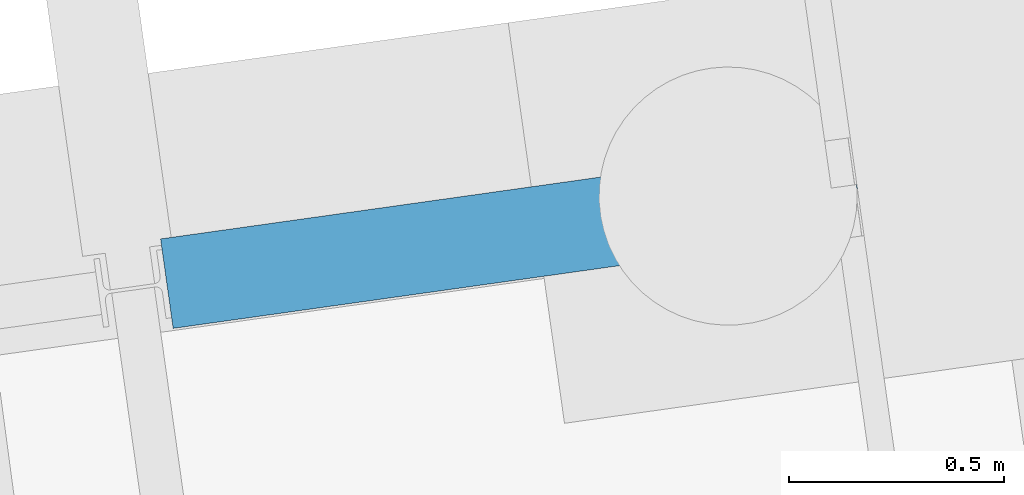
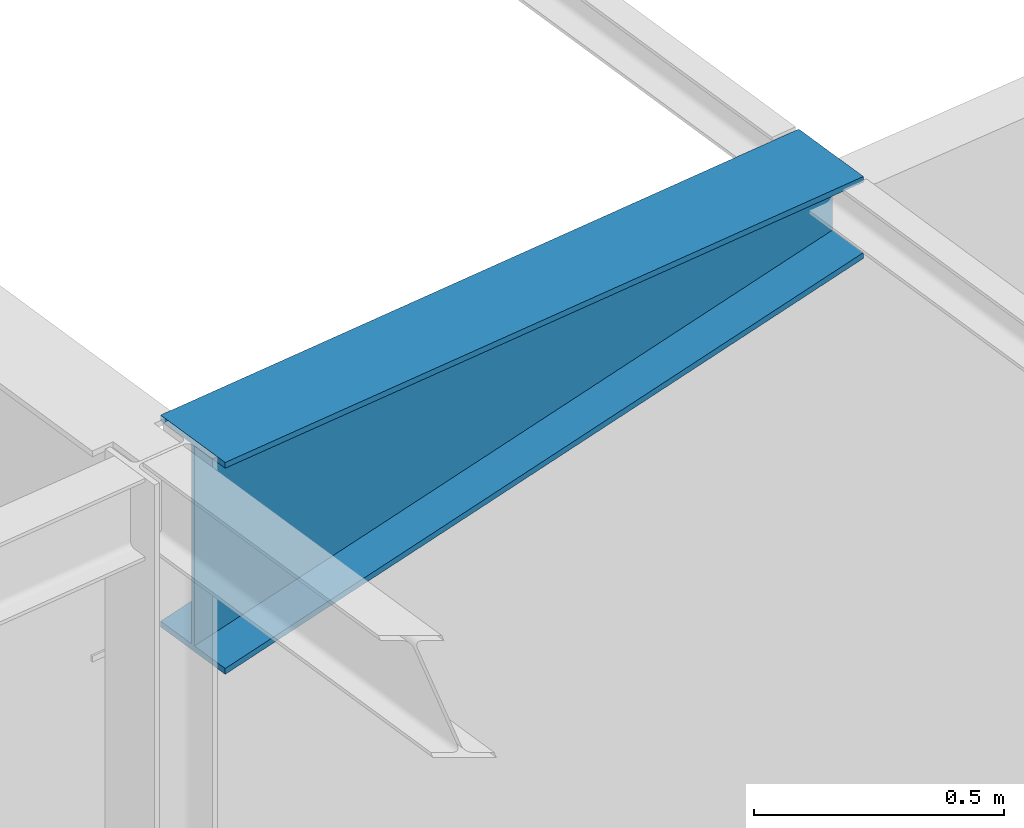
# One storey, part 82 of 82: 1 beam.
"""IFC2X3 building model written with IfcOpenShell, lengths in millimetres."""

from ifc_helpers import new_model, si_unit, frame, origin_with_axes, place, context, subcontext, project, spatial, faceted_brep, material, type_object, element, save


model = new_model("IFC2X3")

# Units and contexts
model_context = context("Model", 3, precision=1e-05, world=origin_with_axes())
body_context = subcontext(model_context, "Body", "Model", "MODEL_VIEW")
ifc_project = project(units=[si_unit("LENGTHUNIT", "METRE", prefix="MILLI"), si_unit("AREAUNIT", "SQUARE_METRE"), si_unit("VOLUMEUNIT", "CUBIC_METRE"), si_unit("MASSUNIT", "GRAM", prefix="KILO"), si_unit("TIMEUNIT", "SECOND"), si_unit("PLANEANGLEUNIT", "RADIAN"), si_unit("SOLIDANGLEUNIT", "STERADIAN"), si_unit("THERMODYNAMICTEMPERATUREUNIT", "DEGREE_CELSIUS"), si_unit("LUMINOUSINTENSITYUNIT", "LUMEN")], contexts=[model_context])

# Site, building, storey
site_placement = place(None, origin_with_axes())
site = spatial("IfcSite", under=ifc_project, at=site_placement, Name="Undefined", CompositionType="ELEMENT")
building_placement = place(site_placement, origin_with_axes())
building = spatial("IfcBuilding", under=site, at=building_placement, Name="Undefined", CompositionType="ELEMENT")
storey_placement = place(building_placement, origin_with_axes())
storey = spatial("IfcBuildingStorey", under=building, at=storey_placement, Name="Undefined", CompositionType="ELEMENT", Elevation=0.0)

# Beam
ifc_material = material(Name="STEEL/S275JR")
beam_type = type_object("IfcBeamType", Name="PHI533-200-10-14*210-14*210", PredefinedType="NOTDEFINED")
beam_placement = place(storey_placement, frame((64746.6728575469, 27171.5574508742, 19025.0297374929), z_axis=(0.0, -6.50000002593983e-08, -0.999999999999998), x_axis=(0.990267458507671, 0.139177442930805, 0.0)))
element("IfcBeam", 1, at=beam_placement, inside=storey, type_object=beam_type, material=ifc_material, Name="POUTRE", ObjectType="PHI533-200-10-14*210-14*210", context=body_context, shape_type="Brep", body=[
    faceted_brep([(80.0010448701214, 104.999999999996, -100.0), (80.0010448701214, 104.999999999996, -86.0), (1699.99999997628, 104.999999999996, -86.0), (1699.99999997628, 104.999999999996, -100.0), (80.0010448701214, 5.0, -86.0), (1699.99999997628, 4.99999999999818, -86.0), (80.0010448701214, 5.0, 403.063145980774), (1699.99999997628, 4.99999999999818, 85.7339388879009), (80.0010448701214, 104.999999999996, 403.063145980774), (1699.99999997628, 104.999999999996, 85.7339388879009), (80.0010448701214, 104.999999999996, 417.329207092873), (1699.99999997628, 104.999999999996, 100.0), (80.0010448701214, -105.000000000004, 417.329207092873), (1699.99999997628, -105.000000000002, 100.0), (80.0010448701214, -105.000000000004, 403.063145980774), (1699.99999997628, -105.000000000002, 85.7339388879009), (80.0010448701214, -5.00000000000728, 403.063145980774), (1699.99999997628, -5.00000000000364, 85.7339388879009), (80.0010448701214, -5.00000000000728, -86.0), (1699.99999997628, -5.00000000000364, -86.0), (80.0010448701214, -105.000000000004, -86.0), (1699.99999997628, -105.000000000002, -86.0), (80.0010448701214, -105.000000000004, -100.0), (1699.99999997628, -105.000000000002, -100.0)], [[[0, 1, 2, 3]], [[1, 4, 5, 2]], [[4, 6, 7, 5]], [[6, 8, 9, 7]], [[8, 10, 11, 9]], [[10, 12, 13, 11]], [[12, 14, 15, 13]], [[14, 16, 17, 15]], [[16, 18, 19, 17]], [[18, 20, 21, 19]], [[20, 22, 23, 21]], [[22, 0, 3, 23]], [[5, 7, 9, 11, 13, 15, 17, 19, 21, 23, 3, 2]], [[22, 20, 18, 16, 14, 12, 10, 8, 6, 4, 1, 0]]]),
])

save(model, "model.ifc")
